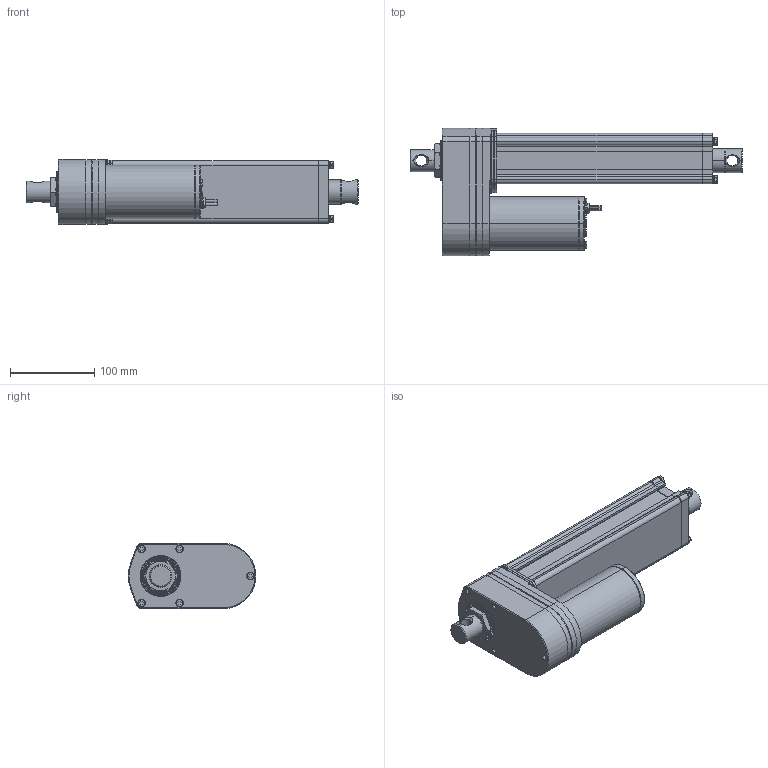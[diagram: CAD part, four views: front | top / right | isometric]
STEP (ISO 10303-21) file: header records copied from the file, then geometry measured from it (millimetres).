
FILE_DESCRIPTION((''),' ');
FILE_NAME('dszy13-150_std.stp',' ',('MSW'),('MSW'),' ','ACIS 14.0',' ');
FILE_SCHEMA(('automotive_design'));
Length unit declared in the file: inch
Products named in the file (2): dszy13-150_std
Bounding box: 394 x 151.7 x 77.2 mm (x, y, z)
Volume: 1959827.9 mm3; surface area: 213234.6 mm2
Topology: 2 solids, 2 shells, 1648 faces, 4015 edges, 2386 vertices
Faces by surface type: plane 1316, cylinder 218, cone 60, torus 30, bspline 24
Entity records: 60917 total; most frequent: CARTESIAN_POINT 8562, DIRECTION 8537, ORIENTED_EDGE 7982, EDGE_CURVE 3991, AXIS2_PLACEMENT_3D 2962, LINE 2613, VECTOR 2613, VERTEX_POINT 2386
